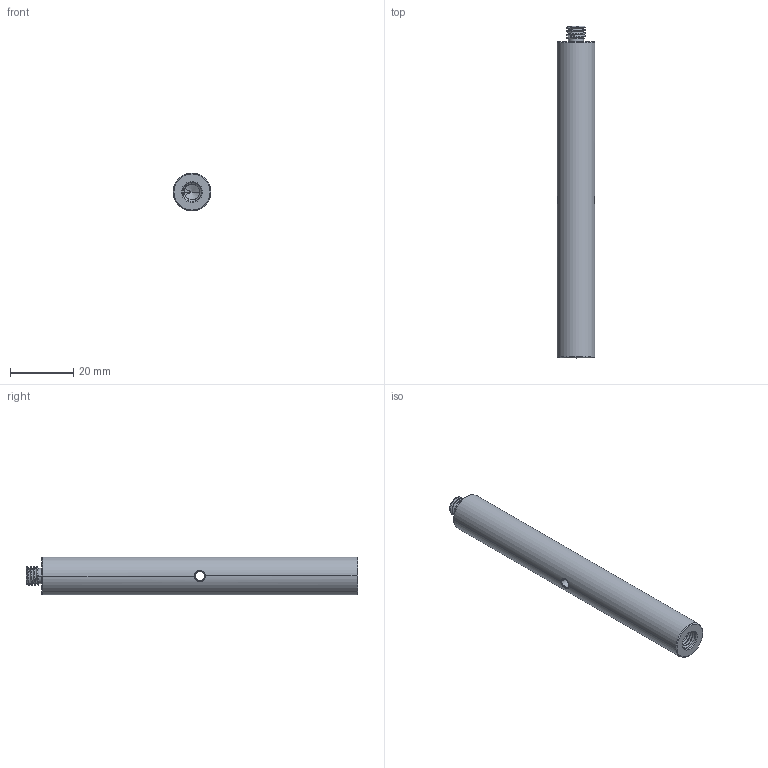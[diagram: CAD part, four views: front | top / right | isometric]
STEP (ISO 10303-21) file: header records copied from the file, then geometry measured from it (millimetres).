
FILE_DESCRIPTION((''),'2;1');
FILE_NAME('PCA10-A','2021-01-06T',('Administrator'),(''),'CREO PARAMETRIC BY PTC INC, 2015290','CREO PARAMETRIC BY PTC INC, 2015290','');
FILE_SCHEMA(('CONFIG_CONTROL_DESIGN'));
Length unit declared in the file: millimetre
Products named in the file (1): PCA10-A
Bounding box: 12 x 105 x 12 mm (x, y, z)
Volume: 11031.4 mm3; surface area: 4508.8 mm2
Topology: 1 solids, 1 shells, 68 faces, 176 edges, 108 vertices
Faces by surface type: cylinder 35, bspline 18, cone 9, plane 6
Entity records: 4717 total; most frequent: CARTESIAN_POINT 3245, ORIENTED_EDGE 348, DIRECTION 209, EDGE_CURVE 174, VERTEX_POINT 108, B_SPLINE_CURVE_WITH_KNOTS 87, AXIS2_PLACEMENT_3D 72, EDGE_LOOP 70
